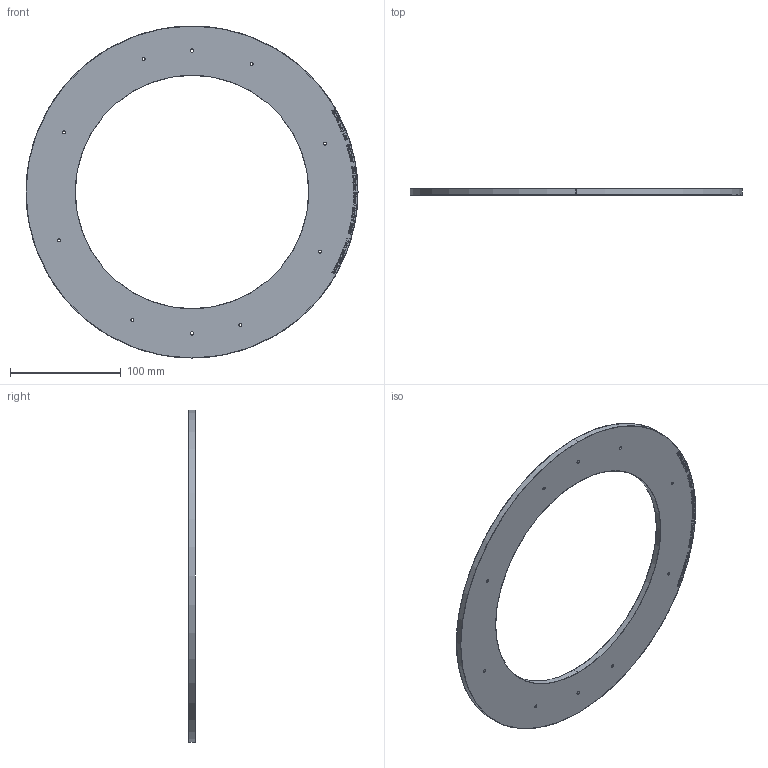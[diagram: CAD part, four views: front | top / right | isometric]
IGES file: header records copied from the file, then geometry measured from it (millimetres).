
Start section: SolidWorks IGES file using analytic representation for surfaces
Global section: file name: C:\Zettlex Data\Mechanical Drawings\1011\300 Duplex Screw Mount Rotor Rev 1-2.IGS; native system: SolidWorks 2015; preprocessor: SolidWorks 2015; author: Nigel; date: 150914.153827; units: millimetre
Bounding box: 300 x 5.6 x 300 mm (x, y, z)
Surface area: 81270 mm2 (no closed solid volume)
Topology: 0 solids, 0 shells, 804 faces, 9749 edges, 9749 vertices
Faces by surface type: bspline 764, revolution 40
